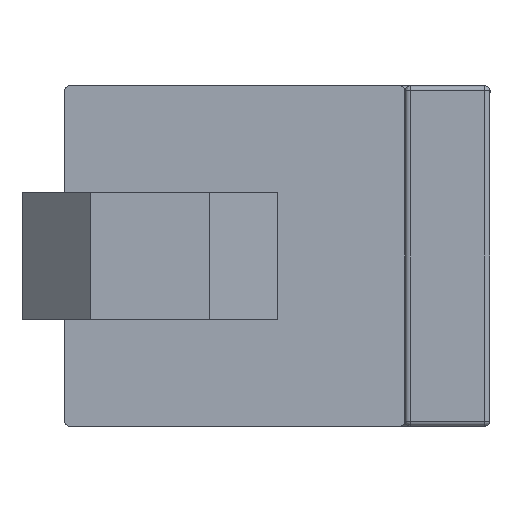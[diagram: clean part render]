
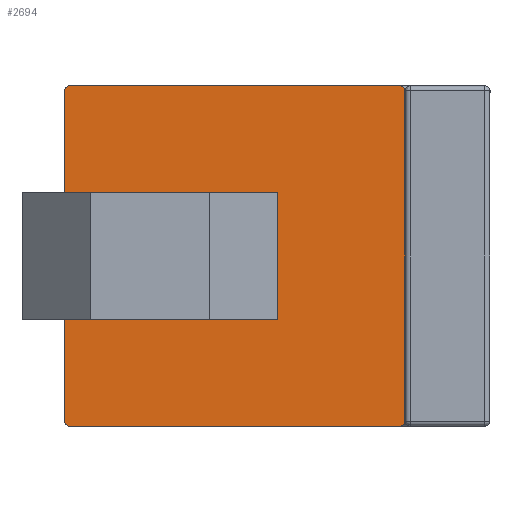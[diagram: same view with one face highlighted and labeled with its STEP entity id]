
A CAD part, front view. The second image highlights one B-rep face of the part: STEP entity #2694.
In plain terms, the highlighted planar face has unit normal (0, -1, 0).
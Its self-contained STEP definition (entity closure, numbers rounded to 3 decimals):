
#126 = VECTOR ( 'NONE', #7447, 1000. ) ;
#283 = VECTOR ( 'NONE', #2030, 1000. ) ;
#311 = EDGE_CURVE ( 'NONE', #5460, #430, #5965, .T. ) ;
#351 = ORIENTED_EDGE ( 'NONE', *, *, #2498, .T. ) ;
#409 = DIRECTION ( 'NONE',  ( 0., 1., 0. ) ) ;
#430 = VERTEX_POINT ( 'NONE', #4364 ) ;
#468 = VERTEX_POINT ( 'NONE', #6327 ) ;
#579 = DIRECTION ( 'NONE',  ( -1., 0., 0. ) ) ;
#820 = VECTOR ( 'NONE', #1332, 1000. ) ;
#831 = DIRECTION ( 'NONE',  ( -1., 0., 0. ) ) ;
#835 = ORIENTED_EDGE ( 'NONE', *, *, #5640, .F. ) ;
#946 = ORIENTED_EDGE ( 'NONE', *, *, #5481, .T. ) ;
#1002 = CIRCLE ( 'NONE', #7995, 0.3 ) ;
#1099 = LINE ( 'NONE', #5790, #7812 ) ;
#1116 = DIRECTION ( 'NONE',  ( 0., 1., 0. ) ) ;
#1219 = CARTESIAN_POINT ( 'NONE',  ( 1.846, -4.305, 13.699 ) ) ;
#1251 = DIRECTION ( 'NONE',  ( 0., -1., 0. ) ) ;
#1332 = DIRECTION ( 'NONE',  ( 1., 0., 0. ) ) ;
#1474 = ORIENTED_EDGE ( 'NONE', *, *, #4410, .T. ) ;
#1505 = ORIENTED_EDGE ( 'NONE', *, *, #311, .T. ) ;
#1543 = DIRECTION ( 'NONE',  ( -1., 0., 0. ) ) ;
#1659 = AXIS2_PLACEMENT_3D ( 'NONE', #3686, #6272, #831 ) ;
#1675 = DIRECTION ( 'NONE',  ( 0., 1., 0. ) ) ;
#1743 = CARTESIAN_POINT ( 'NONE',  ( -13.154, -4.305, 3.549 ) ) ;
#1770 = CARTESIAN_POINT ( 'NONE',  ( -17.854, -4.305, -6.001 ) ) ;
#1786 = CARTESIAN_POINT ( 'NONE',  ( 1.546, -4.305, -6.001 ) ) ;
#1798 = ORIENTED_EDGE ( 'NONE', *, *, #2651, .T. ) ;
#1844 = CIRCLE ( 'NONE', #3928, 3.95 ) ;
#1912 = VERTEX_POINT ( 'NONE', #7591 ) ;
#2025 = EDGE_LOOP ( 'NONE', ( #946, #4967, #835, #1474, #7718, #351, #2973, #1798 ) ) ;
#2030 = DIRECTION ( 'NONE',  ( 0., 0., 1. ) ) ;
#2053 = LINE ( 'NONE', #5053, #283 ) ;
#2084 = LINE ( 'NONE', #4823, #126 ) ;
#2117 = VERTEX_POINT ( 'NONE', #7105 ) ;
#2145 = EDGE_CURVE ( 'NONE', #430, #3629, #1099, .T. ) ;
#2243 = CARTESIAN_POINT ( 'NONE',  ( -9.204, -4.305, 3.549 ) ) ;
#2314 = CARTESIAN_POINT ( 'NONE',  ( -13.154, -4.305, 0.499 ) ) ;
#2350 = VERTEX_POINT ( 'NONE', #1219 ) ;
#2472 = EDGE_CURVE ( 'NONE', #3629, #5693, #4522, .T. ) ;
#2498 = EDGE_CURVE ( 'NONE', #6655, #5960, #3793, .T. ) ;
#2546 = ORIENTED_EDGE ( 'NONE', *, *, #8274, .T. ) ;
#2549 = CARTESIAN_POINT ( 'NONE',  ( -18.154, -4.305, 0.499 ) ) ;
#2609 = ORIENTED_EDGE ( 'NONE', *, *, #2145, .T. ) ;
#2651 = EDGE_CURVE ( 'NONE', #2350, #1912, #7701, .T. ) ;
#2694 = ADVANCED_FACE ( 'NONE', ( #3327, #3394 ), #4442, .T. ) ;
#2973 = ORIENTED_EDGE ( 'NONE', *, *, #4673, .F. ) ;
#2979 = ORIENTED_EDGE ( 'NONE', *, *, #2472, .T. ) ;
#3000 = LINE ( 'NONE', #7777, #6317 ) ;
#3088 = VECTOR ( 'NONE', #8342, 1000. ) ;
#3293 = EDGE_LOOP ( 'NONE', ( #3860, #2546, #4914, #1505, #2609, #2979 ) ) ;
#3327 = FACE_BOUND ( 'NONE', #3293, .T. ) ;
#3377 = DIRECTION ( 'NONE',  ( 1., 0., 0. ) ) ;
#3394 = FACE_OUTER_BOUND ( 'NONE', #2025, .T. ) ;
#3397 = CARTESIAN_POINT ( 'NONE',  ( -18.154, -4.305, 13.699 ) ) ;
#3469 = AXIS2_PLACEMENT_3D ( 'NONE', #4128, #7398, #7557 ) ;
#3629 = VERTEX_POINT ( 'NONE', #7814 ) ;
#3686 = CARTESIAN_POINT ( 'NONE',  ( -17.854, -4.305, -5.701 ) ) ;
#3793 = CIRCLE ( 'NONE', #8561, 0.3 ) ;
#3822 = DIRECTION ( 'NONE',  ( 1., 0., 0. ) ) ;
#3860 = ORIENTED_EDGE ( 'NONE', *, *, #5144, .T. ) ;
#3893 = VECTOR ( 'NONE', #3822, 1000. ) ;
#3928 = AXIS2_PLACEMENT_3D ( 'NONE', #1743, #409, #7515 ) ;
#4128 = CARTESIAN_POINT ( 'NONE',  ( -18.154, -4.305, 13.999 ) ) ;
#4151 = LINE ( 'NONE', #8039, #820 ) ;
#4311 = DIRECTION ( 'NONE',  ( 1., 0., 0. ) ) ;
#4364 = CARTESIAN_POINT ( 'NONE',  ( -17.104, -4.305, 4.449 ) ) ;
#4397 = CARTESIAN_POINT ( 'NONE',  ( -18.154, -4.305, 7.499 ) ) ;
#4410 = EDGE_CURVE ( 'NONE', #2117, #5138, #8536, .T. ) ;
#4416 = CARTESIAN_POINT ( 'NONE',  ( -18.154, -4.305, 13.999 ) ) ;
#4421 = EDGE_CURVE ( 'NONE', #4945, #5460, #4933, .T. ) ;
#4442 = PLANE ( 'NONE',  #3469 ) ;
#4522 = LINE ( 'NONE', #4397, #3893 ) ;
#4673 = EDGE_CURVE ( 'NONE', #2350, #5960, #3000, .T. ) ;
#4823 = CARTESIAN_POINT ( 'NONE',  ( -9.204, -4.305, 3.999 ) ) ;
#4914 = ORIENTED_EDGE ( 'NONE', *, *, #4421, .T. ) ;
#4933 = LINE ( 'NONE', #2549, #8336 ) ;
#4945 = VERTEX_POINT ( 'NONE', #5212 ) ;
#4966 = CARTESIAN_POINT ( 'NONE',  ( -17.854, -4.305, 13.699 ) ) ;
#4967 = ORIENTED_EDGE ( 'NONE', *, *, #5311, .F. ) ;
#5053 = CARTESIAN_POINT ( 'NONE',  ( -18.154, -4.305, 13.699 ) ) ;
#5138 = VERTEX_POINT ( 'NONE', #1770 ) ;
#5144 = EDGE_CURVE ( 'NONE', #5693, #8658, #1844, .T. ) ;
#5212 = CARTESIAN_POINT ( 'NONE',  ( -9.204, -4.305, 0.499 ) ) ;
#5216 = VERTEX_POINT ( 'NONE', #3397 ) ;
#5311 = EDGE_CURVE ( 'NONE', #5216, #468, #1002, .T. ) ;
#5460 = VERTEX_POINT ( 'NONE', #2314 ) ;
#5481 = EDGE_CURVE ( 'NONE', #1912, #468, #8229, .T. ) ;
#5545 = CARTESIAN_POINT ( 'NONE',  ( 1.846, -4.305, -5.701 ) ) ;
#5640 = EDGE_CURVE ( 'NONE', #2117, #5216, #2053, .T. ) ;
#5693 = VERTEX_POINT ( 'NONE', #6866 ) ;
#5770 = CARTESIAN_POINT ( 'NONE',  ( -13.154, -4.305, 4.449 ) ) ;
#5790 = CARTESIAN_POINT ( 'NONE',  ( -17.104, -4.305, 3.999 ) ) ;
#5827 = DIRECTION ( 'NONE',  ( 0., 0., 1. ) ) ;
#5839 = DIRECTION ( 'NONE',  ( 1., 0., 0. ) ) ;
#5922 = CARTESIAN_POINT ( 'NONE',  ( 1.546, -4.305, 13.699 ) ) ;
#5960 = VERTEX_POINT ( 'NONE', #5545 ) ;
#5965 = CIRCLE ( 'NONE', #6329, 3.95 ) ;
#6272 = DIRECTION ( 'NONE',  ( 0., -1., 0. ) ) ;
#6317 = VECTOR ( 'NONE', #8371, 1000. ) ;
#6327 = CARTESIAN_POINT ( 'NONE',  ( -17.854, -4.305, 13.999 ) ) ;
#6329 = AXIS2_PLACEMENT_3D ( 'NONE', #5770, #1116, #5839 ) ;
#6562 = DIRECTION ( 'NONE',  ( 0., -1., 0. ) ) ;
#6655 = VERTEX_POINT ( 'NONE', #1786 ) ;
#6866 = CARTESIAN_POINT ( 'NONE',  ( -13.154, -4.305, 7.499 ) ) ;
#7105 = CARTESIAN_POINT ( 'NONE',  ( -18.154, -4.305, -5.701 ) ) ;
#7203 = CARTESIAN_POINT ( 'NONE',  ( 1.546, -4.305, -5.701 ) ) ;
#7398 = DIRECTION ( 'NONE',  ( 0., -1., 0. ) ) ;
#7447 = DIRECTION ( 'NONE',  ( 0., 0., -1. ) ) ;
#7515 = DIRECTION ( 'NONE',  ( 1., 0., 0. ) ) ;
#7557 = DIRECTION ( 'NONE',  ( 0., 0., -1. ) ) ;
#7591 = CARTESIAN_POINT ( 'NONE',  ( 1.546, -4.305, 13.999 ) ) ;
#7701 = CIRCLE ( 'NONE', #7861, 0.3 ) ;
#7718 = ORIENTED_EDGE ( 'NONE', *, *, #8485, .T. ) ;
#7777 = CARTESIAN_POINT ( 'NONE',  ( 1.846, -4.305, 13.699 ) ) ;
#7812 = VECTOR ( 'NONE', #5827, 1000. ) ;
#7814 = CARTESIAN_POINT ( 'NONE',  ( -17.104, -4.305, 7.499 ) ) ;
#7861 = AXIS2_PLACEMENT_3D ( 'NONE', #5922, #1251, #579 ) ;
#7995 = AXIS2_PLACEMENT_3D ( 'NONE', #4966, #1675, #4311 ) ;
#8039 = CARTESIAN_POINT ( 'NONE',  ( -18.154, -4.305, -6.001 ) ) ;
#8229 = LINE ( 'NONE', #4416, #3088 ) ;
#8274 = EDGE_CURVE ( 'NONE', #8658, #4945, #2084, .T. ) ;
#8336 = VECTOR ( 'NONE', #1543, 1000. ) ;
#8342 = DIRECTION ( 'NONE',  ( -1., 0., 0. ) ) ;
#8371 = DIRECTION ( 'NONE',  ( 0., 0., -1. ) ) ;
#8485 = EDGE_CURVE ( 'NONE', #5138, #6655, #4151, .T. ) ;
#8536 = CIRCLE ( 'NONE', #1659, 0.3 ) ;
#8561 = AXIS2_PLACEMENT_3D ( 'NONE', #7203, #6562, #3377 ) ;
#8658 = VERTEX_POINT ( 'NONE', #2243 ) ;
